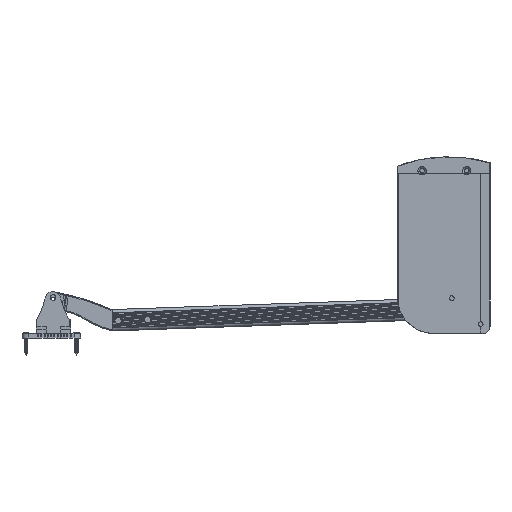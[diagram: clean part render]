
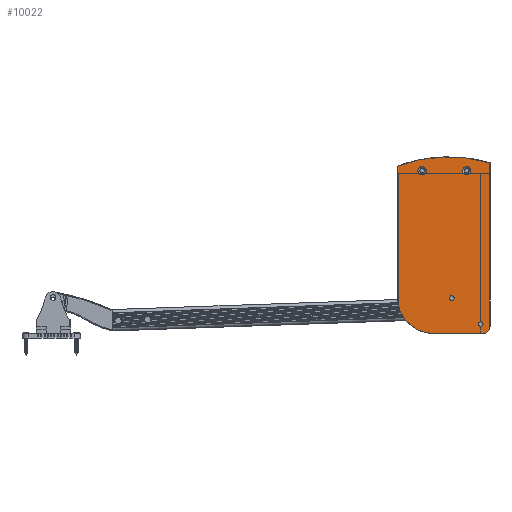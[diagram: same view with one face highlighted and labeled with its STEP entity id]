
A CAD part, left-side view. The second image highlights one B-rep face of the part: STEP entity #10022.
In plain terms, the highlighted planar face has unit normal (-1, 0, 0) as drawn and (0, 0, 1) by its records, which use the part's own axes.
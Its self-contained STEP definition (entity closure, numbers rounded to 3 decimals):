
#159=FACE_BOUND('',#1356,.T.);
#160=FACE_BOUND('',#1357,.T.);
#161=FACE_BOUND('',#1358,.T.);
#162=FACE_BOUND('',#1359,.T.);
#374=PLANE('',#10797);
#777=FACE_OUTER_BOUND('',#1355,.T.);
#1355=EDGE_LOOP('',(#8041,#8042,#8043,#8044,#8045,#8046));
#1356=EDGE_LOOP('',(#8047));
#1357=EDGE_LOOP('',(#8048));
#1358=EDGE_LOOP('',(#8049));
#1359=EDGE_LOOP('',(#8050));
#1753=CIRCLE('',#10788,4.5);
#1760=CIRCLE('',#10798,156.848);
#1761=CIRCLE('',#10799,40.);
#1762=CIRCLE('',#10800,8.);
#1763=CIRCLE('',#10801,4.5);
#1764=CIRCLE('',#10802,2.5);
#1765=CIRCLE('',#10803,2.5);
#2805=LINE('',#18589,#3530);
#2806=LINE('',#18593,#3531);
#2807=LINE('',#18597,#3532);
#3530=VECTOR('',#12606,10.);
#3531=VECTOR('',#12609,10.);
#3532=VECTOR('',#12612,10.);
#4426=VERTEX_POINT('',#18531);
#4446=VERTEX_POINT('',#18587);
#4447=VERTEX_POINT('',#18588);
#4448=VERTEX_POINT('',#18590);
#4449=VERTEX_POINT('',#18592);
#4450=VERTEX_POINT('',#18594);
#4451=VERTEX_POINT('',#18596);
#4452=VERTEX_POINT('',#18599);
#4453=VERTEX_POINT('',#18601);
#4454=VERTEX_POINT('',#18603);
#5703=EDGE_CURVE('',#4426,#4426,#1753,.T.);
#5726=EDGE_CURVE('',#4446,#4447,#2805,.T.);
#5727=EDGE_CURVE('',#4447,#4448,#1760,.T.);
#5728=EDGE_CURVE('',#4448,#4449,#2806,.T.);
#5729=EDGE_CURVE('',#4449,#4450,#1761,.T.);
#5730=EDGE_CURVE('',#4450,#4451,#2807,.T.);
#5731=EDGE_CURVE('',#4451,#4446,#1762,.T.);
#5732=EDGE_CURVE('',#4452,#4452,#1763,.T.);
#5733=EDGE_CURVE('',#4453,#4453,#1764,.T.);
#5734=EDGE_CURVE('',#4454,#4454,#1765,.T.);
#8041=ORIENTED_EDGE('',*,*,#5726,.T.);
#8042=ORIENTED_EDGE('',*,*,#5727,.T.);
#8043=ORIENTED_EDGE('',*,*,#5728,.T.);
#8044=ORIENTED_EDGE('',*,*,#5729,.T.);
#8045=ORIENTED_EDGE('',*,*,#5730,.T.);
#8046=ORIENTED_EDGE('',*,*,#5731,.T.);
#8047=ORIENTED_EDGE('',*,*,#5732,.F.);
#8048=ORIENTED_EDGE('',*,*,#5733,.T.);
#8049=ORIENTED_EDGE('',*,*,#5734,.T.);
#8050=ORIENTED_EDGE('',*,*,#5703,.F.);
#10022=ADVANCED_FACE('',(#777,#159,#160,#161,#162),#374,.T.);
#10788=AXIS2_PLACEMENT_3D('',#18532,#12575,#12576);
#10797=AXIS2_PLACEMENT_3D('',#18586,#12604,#12605);
#10798=AXIS2_PLACEMENT_3D('',#18591,#12607,#12608);
#10799=AXIS2_PLACEMENT_3D('',#18595,#12610,#12611);
#10800=AXIS2_PLACEMENT_3D('',#18598,#12613,#12614);
#10801=AXIS2_PLACEMENT_3D('',#18600,#12615,#12616);
#10802=AXIS2_PLACEMENT_3D('',#18602,#12617,#12618);
#10803=AXIS2_PLACEMENT_3D('',#18604,#12619,#12620);
#12575=DIRECTION('center_axis',(0.,0.,1.));
#12576=DIRECTION('ref_axis',(-1.,0.,0.));
#12604=DIRECTION('center_axis',(0.,0.,1.));
#12605=DIRECTION('ref_axis',(1.,0.,0.));
#12606=DIRECTION('',(0.,1.,0.));
#12607=DIRECTION('center_axis',(0.,0.,1.));
#12608=DIRECTION('ref_axis',(0.285,0.958,0.));
#12609=DIRECTION('',(0.,-1.,0.));
#12610=DIRECTION('center_axis',(0.,0.,1.));
#12611=DIRECTION('ref_axis',(-1.,0.,0.));
#12612=DIRECTION('',(1.,0.,0.));
#12613=DIRECTION('center_axis',(0.,0.,1.));
#12614=DIRECTION('ref_axis',(0.,-1.,0.));
#12615=DIRECTION('center_axis',(0.,0.,1.));
#12616=DIRECTION('ref_axis',(-1.,0.,0.));
#12617=DIRECTION('center_axis',(0.,0.,-1.));
#12618=DIRECTION('ref_axis',(-1.,0.,0.));
#12619=DIRECTION('center_axis',(0.,0.,-1.));
#12620=DIRECTION('ref_axis',(-1.,0.,0.));
#18531=CARTESIAN_POINT('',(-68.5,175.,24.));
#18532=CARTESIAN_POINT('Origin',(-73.,175.,24.));
#18586=CARTESIAN_POINT('Origin',(-78.751,132.099,24.));
#18587=CARTESIAN_POINT('',(0.,8.,24.));
#18588=CARTESIAN_POINT('',(0.,183.487,24.));
#18589=CARTESIAN_POINT('',(0.,8.,24.));
#18590=CARTESIAN_POINT('',(-100.,179.938,24.));
#18591=CARTESIAN_POINT('Origin',(-44.728,33.152,24.));
#18592=CARTESIAN_POINT('',(-100.,40.,24.));
#18593=CARTESIAN_POINT('',(-100.,179.938,24.));
#18594=CARTESIAN_POINT('',(-60.,0.,24.));
#18595=CARTESIAN_POINT('Origin',(-60.,40.,24.));
#18596=CARTESIAN_POINT('',(-8.,0.,24.));
#18597=CARTESIAN_POINT('',(-60.,0.,24.));
#18598=CARTESIAN_POINT('Origin',(-8.,8.,24.));
#18599=CARTESIAN_POINT('',(-20.5,175.,24.));
#18600=CARTESIAN_POINT('Origin',(-25.,175.,24.));
#18601=CARTESIAN_POINT('',(-7.5,10.,24.));
#18602=CARTESIAN_POINT('Origin',(-10.,10.,24.));
#18603=CARTESIAN_POINT('',(-38.5,38.,24.));
#18604=CARTESIAN_POINT('Origin',(-41.,38.,24.));
